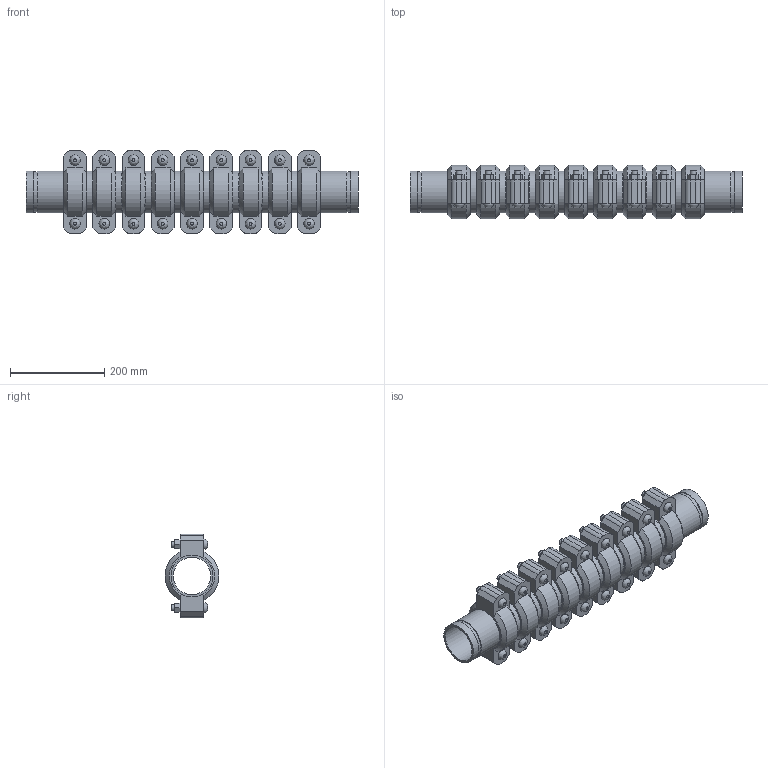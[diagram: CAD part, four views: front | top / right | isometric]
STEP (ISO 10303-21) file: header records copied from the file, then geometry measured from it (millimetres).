
FILE_DESCRIPTION(/* description */ ('VIC EXPANSION JOINT 9 COUPLINGS EXPANDED STYLE 155 (OGS)','CAx-IF Rec.Pracs.---Representation and Presentation of Product Manufacturing Information (PMI)---4.0---2014-10-13'),/* implementation_level */ '2;1');
FILE_NAME(/* name */ 'C:\Users\kkamble\AppData\Roaming\Autodesk\ApplicationPlugins\Victaulic.Temp\A90\Victaulic_IPS_Expansion Joint_Expanded_9 Couplings_Style 155 (OGS)_3 (80).stp',/* time_stamp */ '2021-06-27T00:11:21+02:00',/* author */ ('kkamble'),/* organization */ ('Victaulic'),/* preprocessor_version */ 'ST-DEVELOPER v17.2',/* originating_system */ 'Autodesk Inventor 2019',/* authorisation */ '');
FILE_SCHEMA (('AP242_MANAGED_MODEL_BASED_3D_ENGINEERING_MIM_LF { 1 0 10303 442 1 1 4 }'));
Length unit declared in the file: inch
Products named in the file (4): 155-03.0; Nipple-03.0; Nipple-03.0_1; 075-03.0
Assembly tree (19 placements, depth 2):
  155-03.0
    Nipple-03.0  x2
    Nipple-03.0_1  x8
    075-03.0  x9
Bounding box: 703.33 x 113.88 x 177.8 mm (x, y, z)
Volume: 3786023.5 mm3; surface area: 958601.5 mm2
Topology: 19 solids, 37 shells, 633 faces, 1497 edges, 1050 vertices
Faces by surface type: plane 384, cylinder 195, cone 36, bspline 18
Full cylindrical faces by diameter (mm): 12.7 x36, 14.605 x18, 79.35 x10, 82.55 x9, 84.938 x20, 88.9 x48
Entity records: 2865 total; most frequent: CARTESIAN_POINT 503, DIRECTION 481, ORIENTED_EDGE 386, AXIS2_PLACEMENT_3D 194, EDGE_CURVE 193, VERTEX_POINT 138, EDGE_LOOP 107, LINE 93
